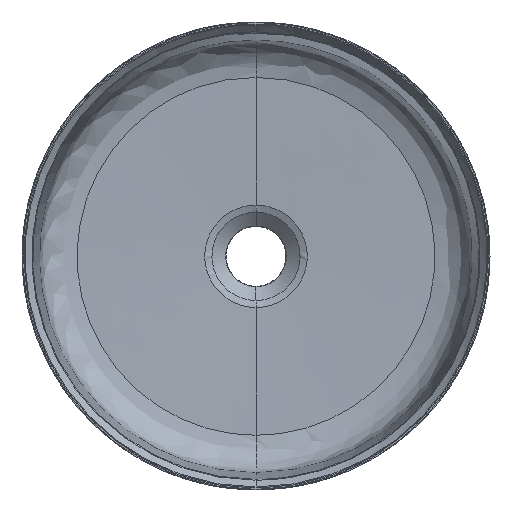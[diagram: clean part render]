
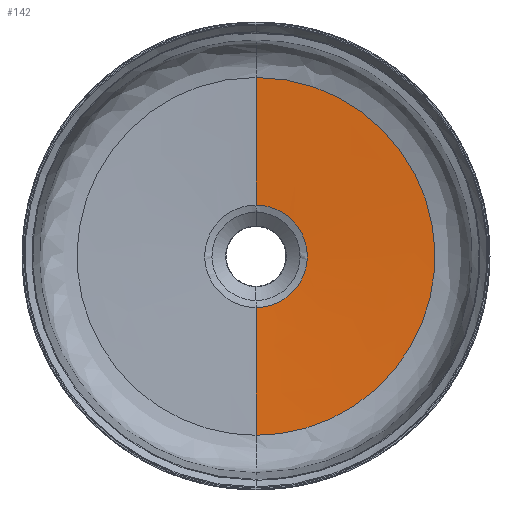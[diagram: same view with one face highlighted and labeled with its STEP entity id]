
A CAD part, top view. The second image highlights one B-rep face of the part: STEP entity #142.
In plain terms, the highlighted free-form (B-spline) face has degree [2, 1] with [9, 2] control points.
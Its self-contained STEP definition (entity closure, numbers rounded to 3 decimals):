
#142=ADVANCED_FACE('',(#332),#2856,.T.);
#332=FACE_OUTER_BOUND('',#528,.T.);
#528=EDGE_LOOP('',(#1059,#1060,#1061,#1062));
#1059=ORIENTED_EDGE('',*,*,#1780,.T.);
#1060=ORIENTED_EDGE('',*,*,#1808,.F.);
#1061=ORIENTED_EDGE('',*,*,#1781,.T.);
#1062=ORIENTED_EDGE('',*,*,#1806,.F.);
#1780=EDGE_CURVE('',#2605,#2607,#2132,.T.);
#1781=EDGE_CURVE('',#2610,#2606,#2133,.T.);
#1806=EDGE_CURVE('',#2605,#2606,#2310,.T.);
#1808=EDGE_CURVE('',#2610,#2607,#2312,.T.);
#2132=B_SPLINE_CURVE_WITH_KNOTS('',1,(#133446,#133447),.UNSPECIFIED.,.F.,
 .F.,(2,2),(-268.867,-170.658),.UNSPECIFIED.);
#2133=B_SPLINE_CURVE_WITH_KNOTS('',1,(#133448,#133449),.UNSPECIFIED.,.F.,
 .F.,(2,2),(170.658,268.867),.UNSPECIFIED.);
#2310=(
BOUNDED_CURVE()
B_SPLINE_CURVE(2,(#133517,#133518,#133519,#133520,#133521),
 .UNSPECIFIED.,.F.,.F.)
B_SPLINE_CURVE_WITH_KNOTS((3,2,3),(61.796,123.593,185.389),
 .UNSPECIFIED.)
CURVE()
GEOMETRIC_REPRESENTATION_ITEM()
RATIONAL_B_SPLINE_CURVE((1.,0.707,1.,0.707,1.))
REPRESENTATION_ITEM('')
);
#2312=(
BOUNDED_CURVE()
B_SPLINE_CURVE(2,(#133527,#133528,#133529,#133530,#133531),
 .UNSPECIFIED.,.F.,.F.)
B_SPLINE_CURVE_WITH_KNOTS((3,2,3),(-784.17,-522.78,
-261.39),.UNSPECIFIED.)
CURVE()
GEOMETRIC_REPRESENTATION_ITEM()
RATIONAL_B_SPLINE_CURVE((1.,0.707,1.,0.707,1.))
REPRESENTATION_ITEM('')
);
#2605=VERTEX_POINT('',#125773);
#2606=VERTEX_POINT('',#125774);
#2607=VERTEX_POINT('',#125775);
#2610=VERTEX_POINT('',#125778);
#2856=(
BOUNDED_SURFACE()
B_SPLINE_SURFACE(2,1,((#64821,#64822),(#64823,#64824),(#64825,#64826),(#64827,
#64828),(#64829,#64830),(#64831,#64832),(#64833,#64834),(#64835,#64836),
(#64837,#64838)),.UNSPECIFIED.,.T.,.F.,.F.)
B_SPLINE_SURFACE_WITH_KNOTS((3,2,2,2,3),(2,2),(0.,215.97,431.939,
647.909,863.879),(170.658,268.867),
 .UNSPECIFIED.)
GEOMETRIC_REPRESENTATION_ITEM()
RATIONAL_B_SPLINE_SURFACE(((1.,1.),(0.707,0.707),
(1.,1.),(0.707,0.707),(1.,1.),(0.707,
0.707),(1.,1.),(0.707,0.707),(1.,1.)))
REPRESENTATION_ITEM('')
SURFACE()
);
#64821=CARTESIAN_POINT('',(22544.917,0.,-9023.524));
#64822=CARTESIAN_POINT('',(22643.067,0.,-9026.952));
#64823=CARTESIAN_POINT('',(22544.917,-137.491,-9023.524));
#64824=CARTESIAN_POINT('',(22643.067,-39.341,-9026.952));
#64825=CARTESIAN_POINT('',(22682.408,-137.491,-9023.524));
#64826=CARTESIAN_POINT('',(22682.408,-39.341,-9026.952));
#64827=CARTESIAN_POINT('',(22819.898,-137.491,-9023.524));
#64828=CARTESIAN_POINT('',(22721.748,-39.341,-9026.952));
#64829=CARTESIAN_POINT('',(22819.898,0.,-9023.524));
#64830=CARTESIAN_POINT('',(22721.748,0.,-9026.952));
#64831=CARTESIAN_POINT('',(22819.898,137.491,-9023.524));
#64832=CARTESIAN_POINT('',(22721.748,39.341,-9026.952));
#64833=CARTESIAN_POINT('',(22682.408,137.491,-9023.524));
#64834=CARTESIAN_POINT('',(22682.408,39.341,-9026.952));
#64835=CARTESIAN_POINT('',(22544.917,137.491,-9023.524));
#64836=CARTESIAN_POINT('',(22643.067,39.341,-9026.952));
#64837=CARTESIAN_POINT('',(22544.917,0.,-9023.524));
#64838=CARTESIAN_POINT('',(22643.067,0.,-9026.952));
#125773=CARTESIAN_POINT('',(22682.408,-39.341,-9026.952));
#125774=CARTESIAN_POINT('',(22682.408,39.341,-9026.952));
#125775=CARTESIAN_POINT('',(22682.408,-137.491,-9023.524));
#125778=CARTESIAN_POINT('',(22682.408,137.491,-9023.524));
#133446=CARTESIAN_POINT('',(22682.408,-39.341,-9026.952));
#133447=CARTESIAN_POINT('',(22682.408,-137.491,-9023.524));
#133448=CARTESIAN_POINT('',(22682.408,137.491,-9023.524));
#133449=CARTESIAN_POINT('',(22682.408,39.341,-9026.952));
#133517=CARTESIAN_POINT('',(22682.408,-39.341,-9026.952));
#133518=CARTESIAN_POINT('',(22721.748,-39.341,-9026.952));
#133519=CARTESIAN_POINT('',(22721.748,0.,-9026.952));
#133520=CARTESIAN_POINT('',(22721.748,39.341,-9026.952));
#133521=CARTESIAN_POINT('',(22682.408,39.341,-9026.952));
#133527=CARTESIAN_POINT('',(22682.408,137.491,-9023.524));
#133528=CARTESIAN_POINT('',(22819.898,137.491,-9023.524));
#133529=CARTESIAN_POINT('',(22819.898,0.,-9023.524));
#133530=CARTESIAN_POINT('',(22819.898,-137.491,-9023.524));
#133531=CARTESIAN_POINT('',(22682.408,-137.491,-9023.524));
